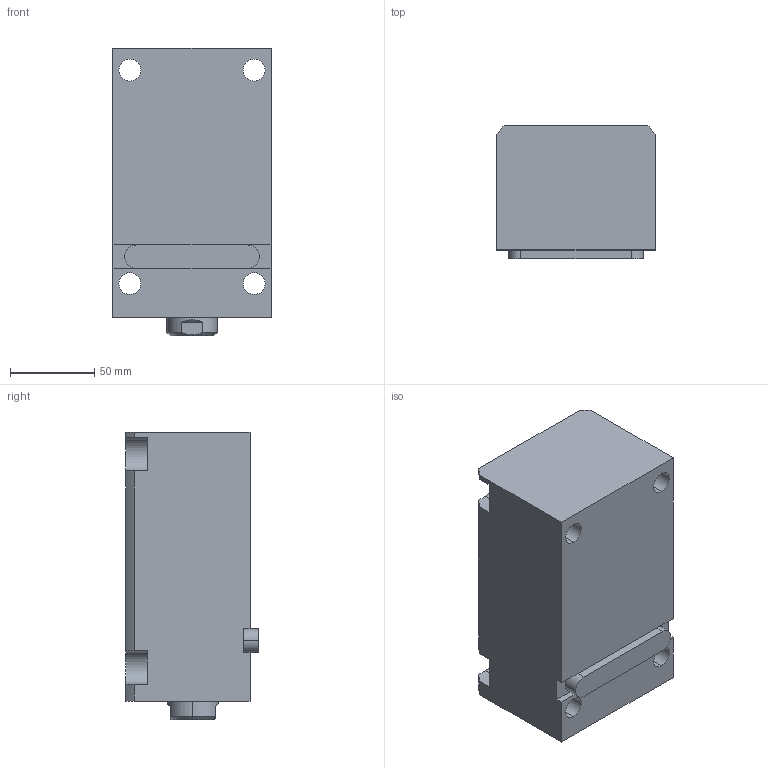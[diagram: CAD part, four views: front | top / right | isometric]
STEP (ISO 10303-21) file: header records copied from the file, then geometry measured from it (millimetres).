
FILE_DESCRIPTION (( 'STEP AP203' ), '1' );
FILE_NAME ('CHTB-LA50-100N.STEP', '2018-05-18T02:06:46', ( '' ), ( '' ), 'SwSTEP 2.0', 'SolidWorks 2015', '' );
FILE_SCHEMA (( 'CONFIG_CONTROL_DESIGN' ));
Length unit declared in the file: millimetre
Products named in the file (4): 掛极LA50-100N; CHTB-LA50-100N; CHTM-SDMA50QG; 活塞杆LA50-100N
Assembly tree (3 placements, depth 2):
  CHTB-LA50-100N
    掛极LA50-100N
    活塞杆LA50-100N
    CHTM-SDMA50QG
Bounding box: 94 x 79 x 171 mm (x, y, z)
Volume: 930236.8 mm3; surface area: 141790.5 mm2
Topology: 3 solids, 3 shells, 202 faces, 542 edges, 358 vertices
Faces by surface type: cylinder 96, plane 53, cone 23, torus 16, bspline 14
Entity records: 11255 total; most frequent: CARTESIAN_POINT 5992, ORIENTED_EDGE 1072, DIRECTION 958, EDGE_CURVE 536, AXIS2_PLACEMENT_3D 377, VERTEX_POINT 358, EDGE_LOOP 234, LINE 204
